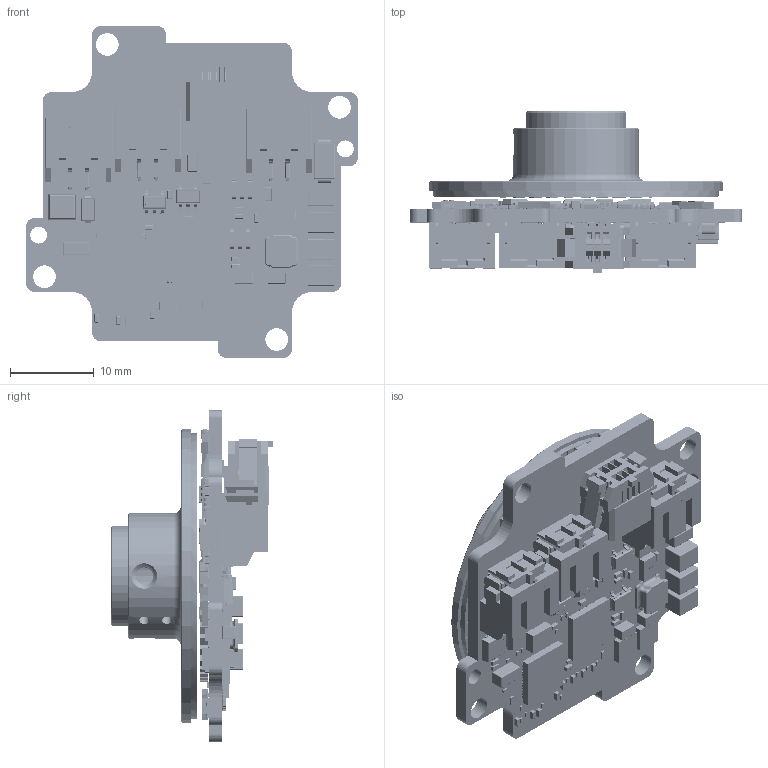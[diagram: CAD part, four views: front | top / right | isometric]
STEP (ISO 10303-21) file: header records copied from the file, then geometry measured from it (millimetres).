
FILE_DESCRIPTION(/* description */ (''),/* implementation_level */ '2;1');
FILE_NAME(/* name */ 'EAS-111 V1.5.2.stp',/* time_stamp */ '2026-07-21T10:15:29+08:00',/* author */ (''),/* organization */ (''),/* preprocessor_version */ 'ST-DEVELOPER v20',/* originating_system */ 'SIEMENS PLM Software NX2312.1700',/* authorisation */ '');
FILE_SCHEMA (('AP203_CONFIGURATION_CONTROLLED_3D_DESIGN_OF_MECHANICAL_PARTS_AND_ASSEMBLIES_MIM_LF { 1 0 10303 403 2 1 2}'));
Products named in the file (1): 60电机模型图_stp-4顶丝M2.5磁饼6
mm-2_objects
Bounding box: 39.6 x 19.38 x 39.6 mm (x, y, z)
Volume: 5258.5 mm3; surface area: 11408.2 mm2
Topology: 939 solids, 1019 shells, 16648 faces, 43138 edges, 28000 vertices
Faces by surface type: plane 11800, cylinder 3608, sphere 936, extrusion 99, torus 95, bspline 80, cone 30
Full cylindrical faces by diameter (mm): 0.15 x1, 0.3 x1, 1.2 x2, 2 x2, 2.7 x4, 5 x1, 6 x1, 8 x1, 12 x1, 15 x1, 35 x1
Entity records: 536202 total; most frequent: CARTESIAN_POINT 110546, ORIENTED_EDGE 81794, DIRECTION 78187, EDGE_CURVE 42489, VECTOR 32355, LINE 32256, VERTEX_POINT 27983, AXIS2_PLACEMENT_3D 22916
